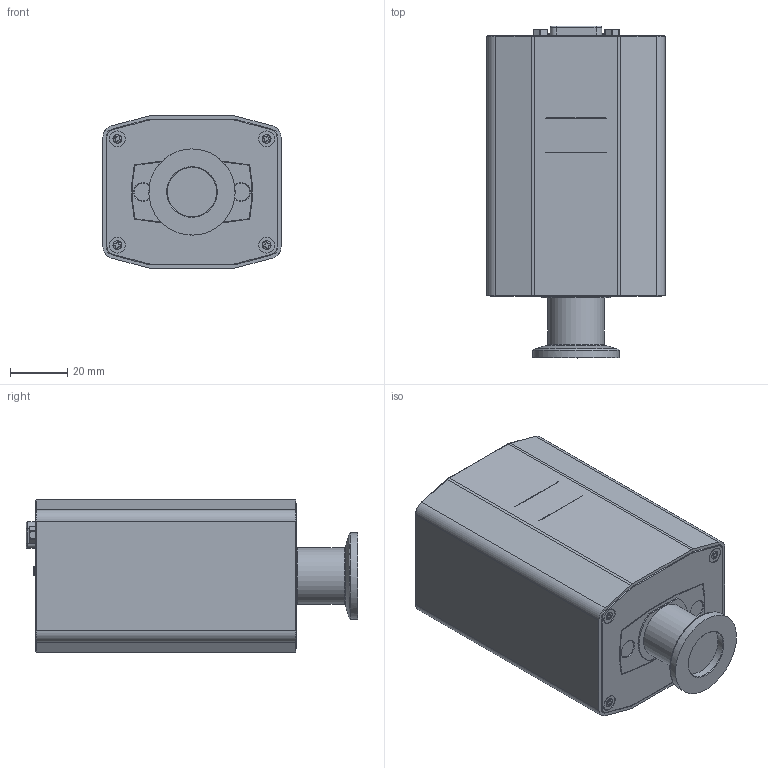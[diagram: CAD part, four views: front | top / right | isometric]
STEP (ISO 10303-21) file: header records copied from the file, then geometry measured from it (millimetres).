
FILE_DESCRIPTION (( 'STEP AP203' ), '1' );
FILE_NAME ('RBF-530 -KF16Íâ.STEP', '2025-10-24T02:41:43', ( '' ), ( '' ), 'SwSTEP 2.0', 'SolidWorks 2021', '' );
FILE_SCHEMA (( 'CONFIG_CONTROL_DESIGN' ));
Products named in the file (1): RBF-530 -KF16俋
Bounding box: 62 x 115.53 x 53 mm (x, y, z)
Surface area: 28567.5 mm2 (no closed solid volume)
Topology: 0 solids, 1 shells, 895 faces, 2357 edges, 1552 vertices
Faces by surface type: plane 463, bspline 254, cylinder 107, sphere 31, torus 29, cone 11
Full cylindrical faces by diameter (mm): 0.8 x15, 1.2 x3, 3.2 x3, 3.4 x3, 4 x3, 5.5 x4, 6.5 x1, 17.2 x1, 19.5 x1, 30 x1
Entity records: 49636 total; most frequent: CARTESIAN_POINT 29617, ORIENTED_EDGE 4474, DIRECTION 3282, EDGE_CURVE 2239, VERTEX_POINT 1509, VECTOR 1338, LINE 1338, EDGE_LOOP 1056
